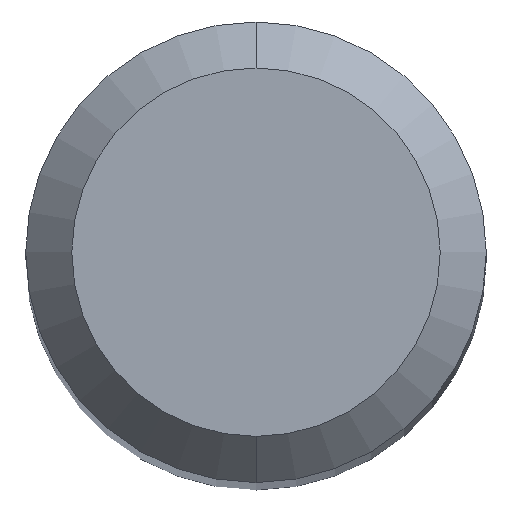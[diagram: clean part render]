
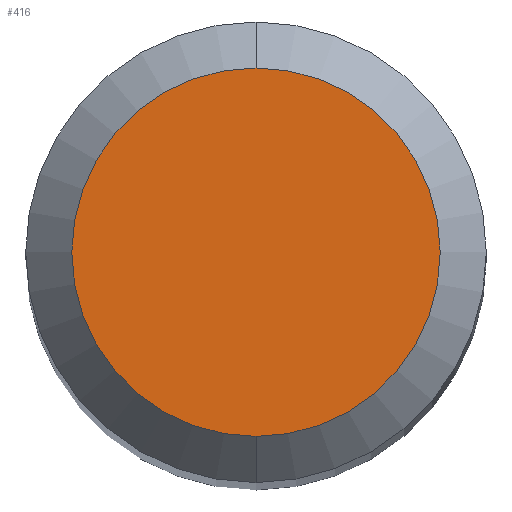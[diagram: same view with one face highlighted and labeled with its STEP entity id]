
A CAD part, top view. The second image highlights one B-rep face of the part: STEP entity #416.
In plain terms, the highlighted planar face has unit normal (0, 0, 1).
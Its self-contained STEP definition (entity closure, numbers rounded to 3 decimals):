
#252=EDGE_CURVE('',#354,#500,#605,.T.);
#354=VERTEX_POINT('',#720);
#416=ADVANCED_FACE('',(#788),#789,.T.);
#438=EDGE_CURVE('',#500,#354,#812,.T.);
#500=VERTEX_POINT('',#880);
#605=CIRCLE('',#1016,1.2);
#720=CARTESIAN_POINT('',(0.,-1.2,0.0));
#788=FACE_OUTER_BOUND('',#1360,.T.);
#789=PLANE('',#1361);
#812=CIRCLE('',#1387,1.2);
#880=CARTESIAN_POINT('',(0.0,1.2,0.0));
#1016=AXIS2_PLACEMENT_3D('',#1674,#1675,#1676);
#1360=EDGE_LOOP('',(#1903,#1904));
#1361=AXIS2_PLACEMENT_3D('',#1905,#1906,#1907);
#1387=AXIS2_PLACEMENT_3D('',#1922,#1923,#1924);
#1674=CARTESIAN_POINT('',(0.0,0.0,0.0));
#1675=DIRECTION('',(0.0,0.0,-1.0));
#1676=DIRECTION('',(0.0,1.0,0.0));
#1903=ORIENTED_EDGE('',*,*,#438,.F.);
#1904=ORIENTED_EDGE('',*,*,#252,.F.);
#1905=CARTESIAN_POINT('',(0.0,0.6,0.0));
#1906=DIRECTION('',(-0.0,0.0,1.0));
#1907=DIRECTION('',(0.0,-1.0,0.0));
#1922=CARTESIAN_POINT('',(0.0,0.0,0.0));
#1923=DIRECTION('',(0.0,0.0,-1.0));
#1924=DIRECTION('',(0.0,1.0,0.0));
